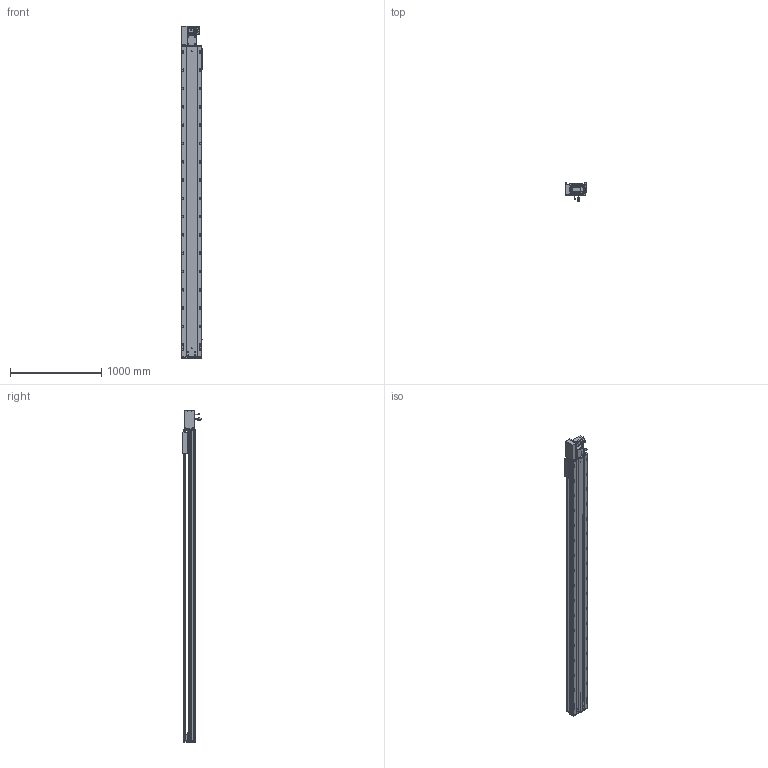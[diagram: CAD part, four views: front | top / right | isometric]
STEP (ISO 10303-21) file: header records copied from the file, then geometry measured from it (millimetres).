
FILE_DESCRIPTION (( 'STEP AP203' ), '1' );
FILE_NAME ('RY220-T-300-LK.SLDASM_3050.step', '2022-07-25T08:16:43', ( '' ), ( '' ), 'SwSTEP 2.0', 'SolidWorks 2016', '' );
FILE_SCHEMA (( 'CONFIG_CONTROL_DESIGN' ));
Length unit declared in the file: millimetre
Products named in the file (14): RY220-T-湍謫欶(鍼踢); RY220-T-蛌殏萇儂假蚾啣(750W); RY220-同步轮副支撑座6304×2; 怢湛750W_ECMA-CX0807ES; RY220翋肮祭謫釱; RY220-T-300-LK.SLDASM_3050; 覜茼ん672; RY220-T菁釱-300_3050; RY220圉猾敕々湍臏賑輸; 滅袉蝶18-15; 110A-T-肮祭謫釱傷裔; RY220翋肮祭謫裔啣; RY220-俋离672覜茼んえ; RY220-T-300-奻裔啣_3050
Assembly tree (18 placements, depth 2):
  RY220-T-300-LK.SLDASM_3050
    RY220-T菁釱-300_3050
    RY220翋肮祭謫釱
    覜茼ん672  x3
    RY220圉猾敕々湍臏賑輸
    RY220-T-300-奻裔啣_3050
    RY220-俋离672覜茼んえ
    滅袉蝶18-15  x3
    RY220翋肮祭謫裔啣  x2
    110A-T-肮祭謫釱傷裔
    怢湛750W_ECMA-CX0807ES
    RY220-T-湍謫欶(鍼踢)
    RY220-T-蛌殏萇儂假蚾啣(750W)
    RY220-同步轮副支撑座6304×2
Bounding box: 239.7 x 198.77 x 3629 mm (x, y, z)
Volume: 25523410.8 mm3; surface area: 7905398.2 mm2
Topology: 19 solids, 19 shells, 3050 faces, 8443 edges, 5282 vertices
Faces by surface type: cylinder 1514, plane 1069, cone 385, bspline 56, sphere 16, torus 10
Entity records: 101827 total; most frequent: CARTESIAN_POINT 28715, ORIENTED_EDGE 15098, DIRECTION 14608, EDGE_CURVE 7549, AXIS2_PLACEMENT_3D 5284, VERTEX_POINT 4906, LINE 4040, VECTOR 4040
